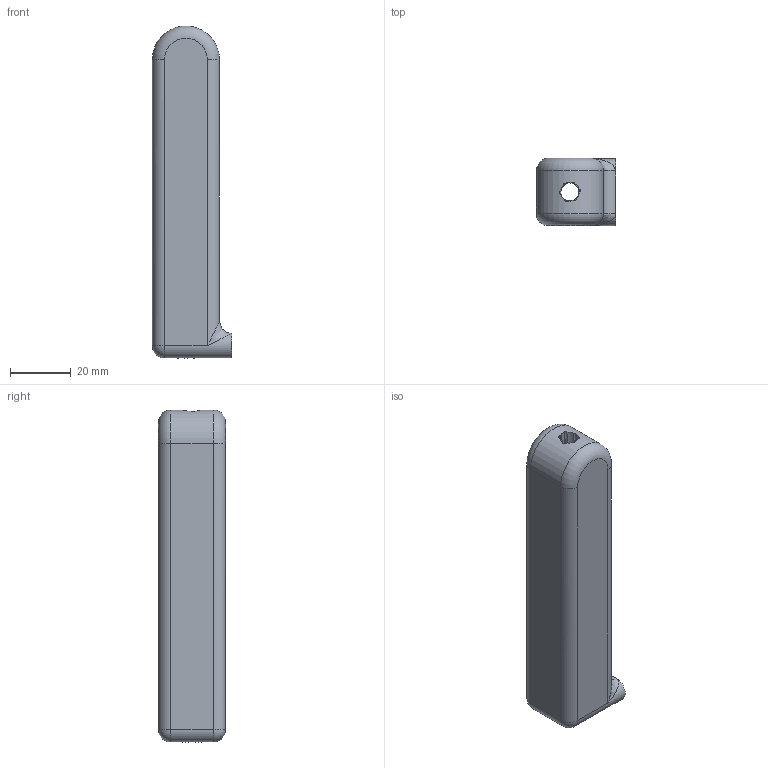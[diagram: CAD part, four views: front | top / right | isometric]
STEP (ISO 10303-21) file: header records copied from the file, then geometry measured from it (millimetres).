
FILE_DESCRIPTION((''),'2;1');
FILE_NAME('C:\Users\JamesRPatrick\Documents\Autodesk\PM422\STEP2.0\PM422Barrel2v2.stp','2015-08-22T19:05:11',('JamesRPatrick'),(''),'Autodesk Inventor 2012','Autodesk Inventor 2012','');
FILE_SCHEMA(('AUTOMOTIVE_DESIGN { 1 0 10303 214 1 1 1 1 }'));
Length unit declared in the file: millimetre
Products named in the file (1): PM422Barrel2v2
Bounding box: 26 x 22 x 109 mm (x, y, z)
Volume: 47212.4 mm3; surface area: 11738.1 mm2
Topology: 1 solids, 1 shells, 48 faces, 117 edges, 68 vertices
Faces by surface type: bspline 17, cylinder 15, plane 12, sphere 2, torus 2
Entity records: 2330 total; most frequent: CARTESIAN_POINT 1354, ORIENTED_EDGE 224, DIRECTION 151, EDGE_CURVE 112, AXIS2_PLACEMENT_3D 66, VERTEX_POINT 66, B_SPLINE_CURVE_WITH_KNOTS 59, EDGE_LOOP 50
